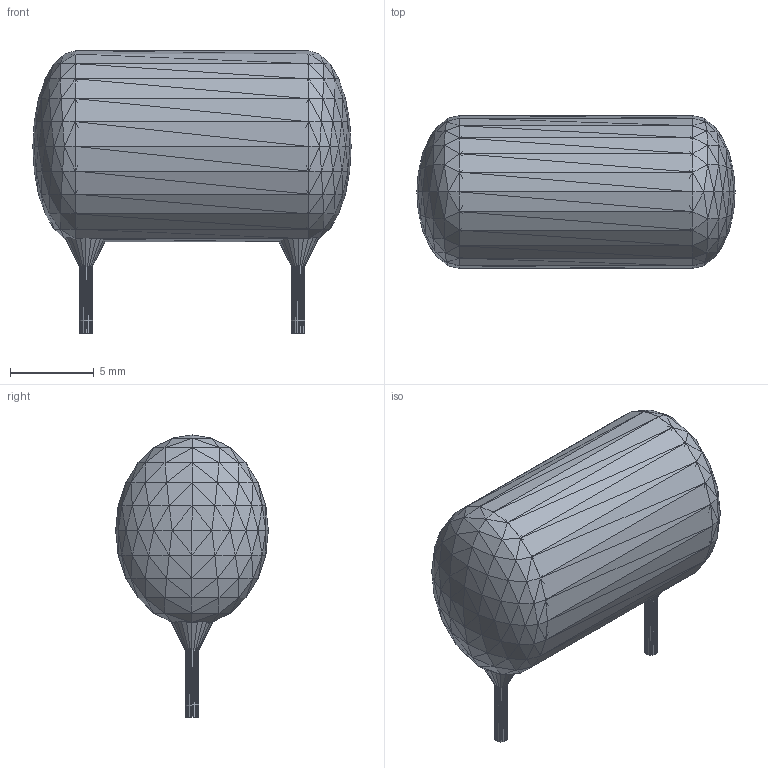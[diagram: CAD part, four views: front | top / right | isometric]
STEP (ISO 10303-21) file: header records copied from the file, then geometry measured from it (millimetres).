
FILE_DESCRIPTION(('HOOPS Exchange Step'),'2;1');
FILE_NAME('***.stp');
FILE_SCHEMA( ('AP242_MANAGED_MODEL_BASED_3D_ENGINEERING_MIM_LF {1 0 10303 442 1 1 4 }') );
Length unit declared in the file: inch
Products named in the file (8): CAPORGMDNF_2; CAPORGMDNF_3; CAPORGMDNF_4; CAPORGMDNF_5; CAPORGMDNF_6; CAPORGMDNF_7; CAPORGMDNF_8; CAPORGMDNF
Assembly tree (7 placements, depth 2):
  CAPORGMDNF
    CAPORGMDNF_2
    CAPORGMDNF_3
    CAPORGMDNF_4
    CAPORGMDNF_5
    CAPORGMDNF_6
    CAPORGMDNF_7
    CAPORGMDNF_8
Bounding box: 19.05 x 9.14 x 16.89 mm (x, y, z)
Surface area: 2236.6 mm2 (no closed solid volume)
Topology: 0 solids, 1920 shells, 1920 faces, 1440 edges, 494 vertices
Faces by surface type: plane 1920
Entity records: 29644 total; most frequent: ORIENTED_EDGE 5760, DIRECTION 5312, CARTESIAN_POINT 3870, AXIS2_PLACEMENT_3D 1936, PLANE 1920, EDGE_LOOP 1920, FACE_BOUND 1920, ADVANCED_FACE 1920
